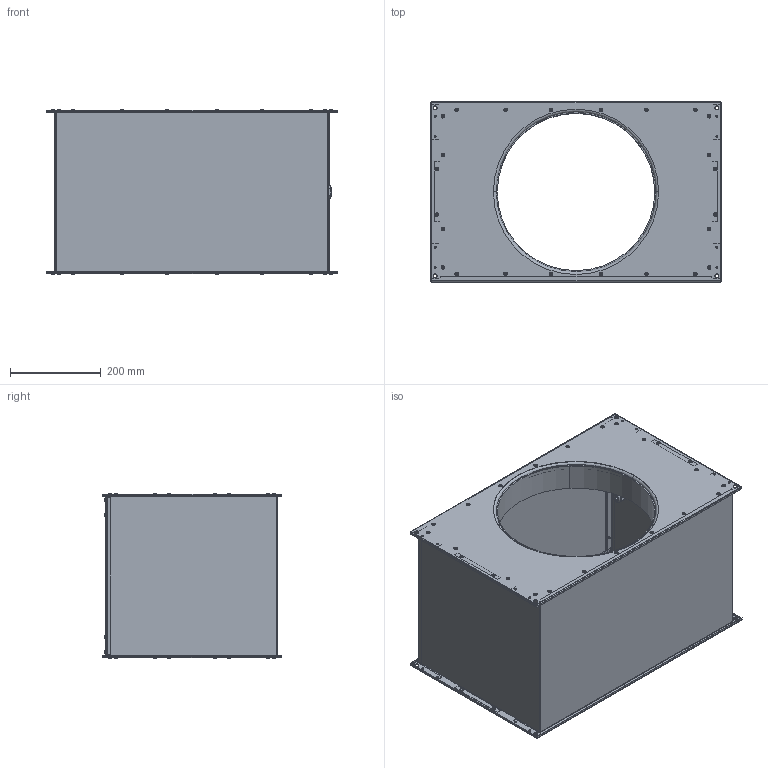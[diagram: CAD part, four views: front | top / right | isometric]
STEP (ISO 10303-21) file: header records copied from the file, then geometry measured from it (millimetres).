
FILE_DESCRIPTION (( 'STEP AP203' ), '1' );
FILE_NAME ('136752-00_EMKI6035EC22.STEP', '2016-04-20T05:55:52', ( '' ), ( '' ), 'SwSTEP 2.0', 'SolidWorks 2012', '' );
FILE_SCHEMA (( 'CONFIG_CONTROL_DESIGN' ));
Length unit declared in the file: millimetre
Products named in the file (1): 136752-00_EMKI6035EC22
Bounding box: 639 x 396 x 362.8 mm (x, y, z)
Surface area: 2265759.5 mm2 (no closed solid volume)
Topology: 0 solids, 133 shells, 759 faces, 2488 edges, 1782 vertices
Faces by surface type: cylinder 397, plane 184, torus 156, bspline 12, cone 10
Entity records: 28923 total; most frequent: CARTESIAN_POINT 6589, DIRECTION 5193, ORIENTED_EDGE 3639, EDGE_CURVE 2480, AXIS2_PLACEMENT_3D 2150, VERTEX_POINT 1782, CIRCLE 1402, EDGE_LOOP 993
